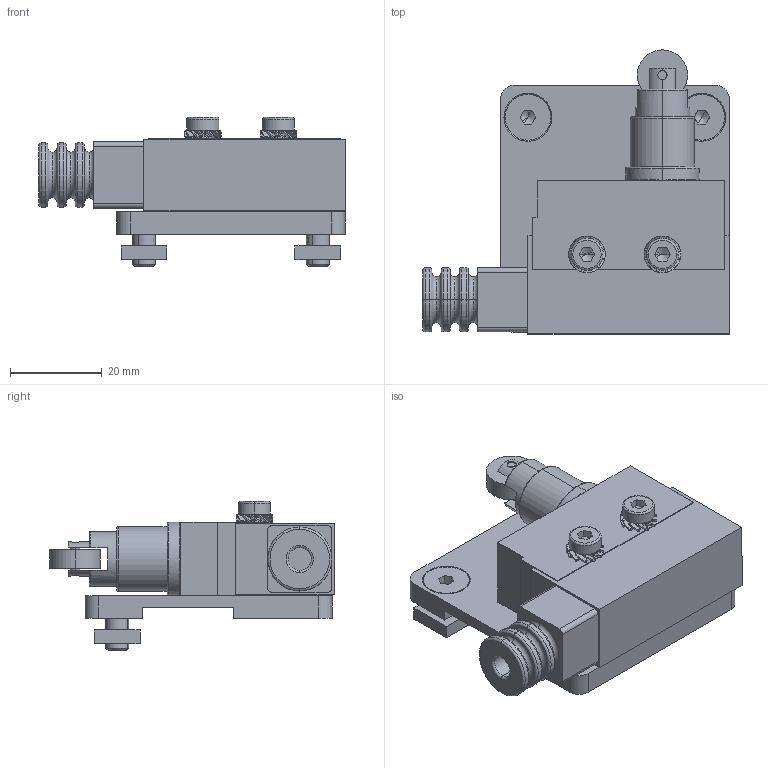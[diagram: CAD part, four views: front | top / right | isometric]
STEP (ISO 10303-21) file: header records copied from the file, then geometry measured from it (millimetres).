
FILE_DESCRIPTION (( 'STEP AP203' ), '1' );
FILE_NAME ('rechte Ausführung für LES 5 - 216460 0002.STEP', '2020-02-05T06:54:47', ( '' ), ( '' ), 'SwSTEP 2.0', 'SolidWorks 2018', '' );
FILE_SCHEMA (( 'CONFIG_CONTROL_DESIGN' ));
Length unit declared in the file: millimetre
Products named in the file (1): rechte Ausführung für LES 5 - 216460 0002
Bounding box: 67 x 62.1 x 32.63 mm (x, y, z)
Volume: 40980.6 mm3; surface area: 18129.2 mm2
Topology: 10 solids, 10 shells, 522 faces, 1388 edges, 893 vertices
Faces by surface type: cylinder 234, plane 205, torus 47, cone 32, bspline 4
Entity records: 16751 total; most frequent: CARTESIAN_POINT 4564, ORIENTED_EDGE 2752, DIRECTION 2286, EDGE_CURVE 1376, VERTEX_POINT 893, AXIS2_PLACEMENT_3D 871, EDGE_LOOP 575, VECTOR 544
